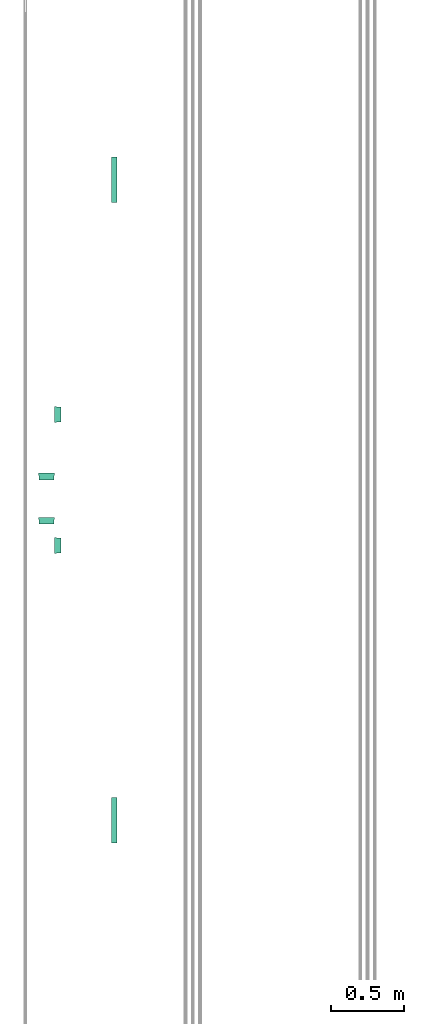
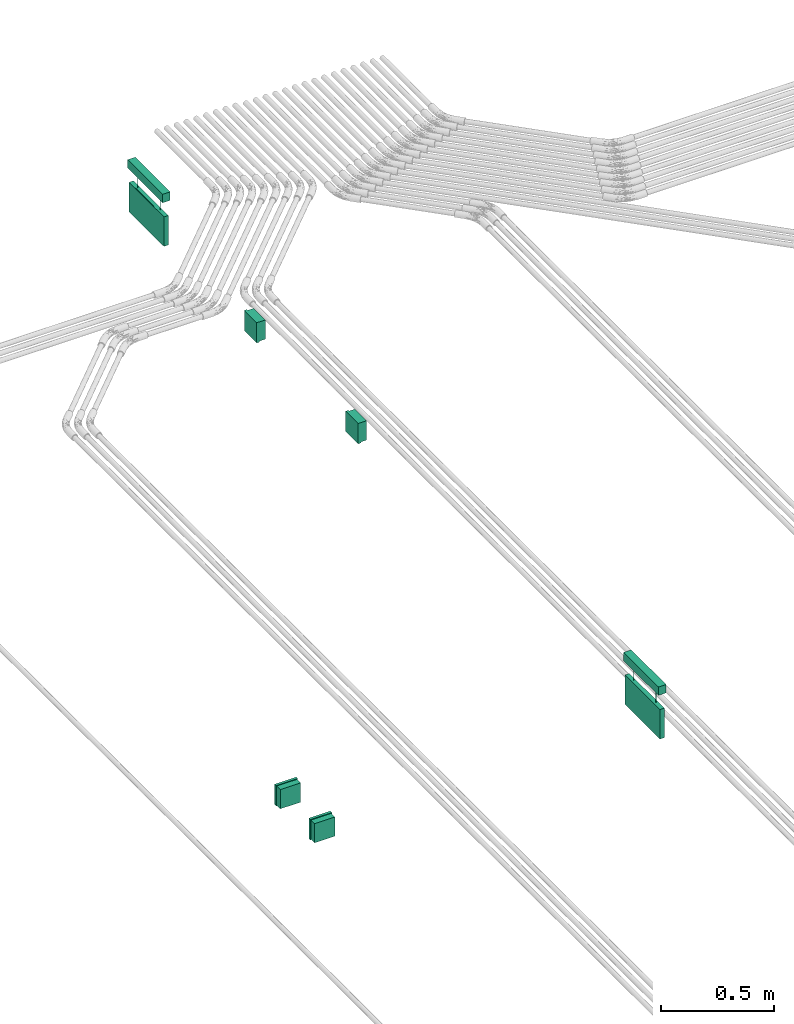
# One storey, part 2 of 51: 4 flow fittings, 2 flow terminals.
"""IFC2X3 building model written with IfcOpenShell, lengths in millimetres."""

from ifc_helpers import new_model, entity, si_unit, converted_unit, derived_unit, direction, frame, origin_with_axes, place, context, subcontext, project, spatial, open_shell, surface_model, source, transform, mapped, type_object, element, save


model = new_model("IFC2X3")

# Units and contexts
model_context = context("Model", 3, precision=0.01, world=frame((0.0, 4.29681676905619e-09, 0.0)), true_north=direction((4.01073788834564e-13, 1.0)))
plan_context = context("Plan", 3, precision=0.01, world=frame((0.0, 4.29681676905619e-09, 0.0)), true_north=direction((4.01073788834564e-13, 1.0)))
body_context = subcontext(model_context, "Body", "Model", "MODEL_VIEW")
ifc_project = project(units=[converted_unit("PLANEANGLEUNIT", "DEGREE", entity("IfcPositiveLengthMeasure", 0.0174532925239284), si_unit("PLANEANGLEUNIT", "RADIAN"), dimensions=[0, 0, 0, 0, 0, 0, 0]), si_unit("AREAUNIT", "SQUARE_METRE"), si_unit("LENGTHUNIT", "METRE", prefix="MILLI"), si_unit("MASSUNIT", "GRAM", prefix="KILO"), si_unit("POWERUNIT", "WATT"), si_unit("PRESSUREUNIT", "PASCAL"), si_unit("FORCEUNIT", "NEWTON", prefix="KILO"), si_unit("ELECTRICVOLTAGEUNIT", "VOLT"), si_unit("ELECTRICCURRENTUNIT", "AMPERE"), si_unit("THERMODYNAMICTEMPERATUREUNIT", "DEGREE_CELSIUS"), si_unit("TIMEUNIT", "SECOND"), si_unit("VOLUMEUNIT", "CUBIC_METRE"), derived_unit("LINEARVELOCITYUNIT", [(si_unit("LENGTHUNIT", "METRE"), 1), (si_unit("TIMEUNIT", "SECOND"), -1)]), derived_unit("VOLUMETRICFLOWRATEUNIT", [(si_unit("VOLUMEUNIT", "CUBIC_METRE"), 1), (si_unit("TIMEUNIT", "SECOND"), -1)]), derived_unit("THERMALTRANSMITTANCEUNIT", [(si_unit("POWERUNIT", "WATT"), 1), (si_unit("THERMODYNAMICTEMPERATUREUNIT", "KELVIN"), -1), (si_unit("AREAUNIT", "SQUARE_METRE"), -1)]), derived_unit("SOUNDPRESSUREUNIT", [(si_unit("PRESSUREUNIT", "PASCAL"), 1)])], contexts=[model_context, plan_context])

# Site, building, storey
site_placement = place(None, frame((0.0, -4.29681676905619e-09, 0.0), z_axis=(0.0, 0.0, 1.0), x_axis=(1.0, 0.0, 0.0)))
site = spatial("IfcSite", under=ifc_project, at=site_placement, Name="ENGM", CompositionType="ELEMENT")
building_placement = place(site_placement, frame((0.0, 4.29681676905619e-09, 0.0), z_axis=(0.0, 0.0, 1.0), x_axis=(1.0, 0.0, 0.0)))
building = spatial("IfcBuilding", under=site, at=building_placement, Name="TI", CompositionType="ELEMENT")
storey_placement = place(building_placement, frame((0.0, 0.0, 210900.0), z_axis=(0.0, 0.0, 1.0), x_axis=(1.0, 0.0, 0.0)))
storey = spatial("IfcBuildingStorey", under=building, at=storey_placement, Name="Nivå F", CompositionType="ELEMENT", Elevation=210900.0)

# Flow fittings
junction_box_type = type_object("IfcJunctionBoxType", Name="Koblingsboks åpen", PredefinedType="NOTDEFINED")
shared_shape_1 = source(origin_with_axes(), body_context, "Body", "SurfaceModel", [
    surface_model("IfcShellBasedSurfaceModel", [(-55.0, 46.0, 55.0), (-55.0, 32.2, 55.0), (55.0, 32.2, 55.0), (55.0, 46.0, 55.0), (55.0, 46.0, -55.0), (55.0, 32.2, -55.0), (-55.0, 32.2, -55.0), (-55.0, 46.0, -55.0), (-52.0, 32.2, 52.0), (-52.0, 0.0, 52.0), (52.0, 0.0, 52.0), (52.0, 32.2, 52.0), (52.0, 32.2, -52.0), (52.0, 0.0, -52.0), (-52.0, 0.0, -52.0), (-52.0, 32.2, -52.0)], [open_shell([[[0, 1, 2]], [[2, 3, 0]], [[4, 5, 6]], [[6, 7, 4]], [[2, 1, 6]], [[6, 5, 2]], [[3, 2, 5]], [[5, 4, 3]], [[0, 3, 4]], [[4, 7, 0]], [[1, 0, 7]], [[7, 6, 1]], [[8, 9, 10]], [[10, 11, 8]], [[12, 13, 14]], [[14, 15, 12]], [[10, 9, 14]], [[14, 13, 10]], [[11, 10, 13]], [[13, 12, 11]], [[8, 11, 12]], [[12, 15, 8]], [[9, 8, 15]], [[15, 14, 9]]])]),
])
for number, where, z_axis, x_axis in (
    (1, (598170.0118, 693907.0, 500.0), (0.0, 0.0, 1.0), (1.0, 0.0, 0.0)),
    (2, (598269.97384, 694355.6718, 2750.0), (0.0, 0.0, 1.0), (0.0, 1.0, 0.0)),
    (3, (598170.0118, 693603.46083, 500.0), (0.0, 0.0, 1.0), (1.0, 0.0, 0.0)),
    (4, (598269.97384, 693455.6718, 2750.0), (0.0, 0.0, 1.0), (0.0, 1.0, 0.0)),
):
    element("IfcFlowFitting", number, at=place(storey_placement, frame(where, z_axis=z_axis, x_axis=x_axis)), inside=storey, type_object=junction_box_type, Name="Koblingsboks åpen", context=body_context, shape_type="MappedRepresentation", body=[
        mapped(shared_shape_1, transform((0.0, 0.0, 0.0), scale=1.0)),
    ])

# Flow terminals
light_fixture_type = type_object("IfcLightFixtureType", Name="IB7334 Zumtobel Puresign/Consign 150 ASI NDA", PredefinedType="NOTDEFINED")
shared_shape_2 = source(origin_with_axes(), body_context, "Body", "SurfaceModel", [
    surface_model("IfcShellBasedSurfaceModel", [(-81.53868, 34.0, -145.12258), (-54.46132, 34.0, -145.12258), (-54.46132, 34.0, -221.44284), (-27.10707, 34.0, -224.68761), (-68.0, 34.0, -265.58054), (-27.10707, 34.0, -194.08859), (-81.53868, 34.0, -221.44284), (-108.89293, 34.0, -224.68761), (-108.89293, 34.0, -194.08859), (-81.53868, 32.0, -221.44284), (-68.0, 32.0, -265.58054), (-54.46132, 32.0, -221.44284), (-108.89293, 32.0, -224.68761), (-108.89293, 32.0, -194.08859), (-27.10707, 32.0, -224.68761), (-81.53868, 32.0, -145.12258), (-54.46132, 32.0, -145.12258), (-27.10707, 32.0, -194.08859), (-128.62178, 34.0, -240.35155), (-135.61481, 34.0, -223.4689), (-117.49747, 34.0, -254.84903), (-138.0, 34.0, -205.35156), (-135.61481, 34.0, -187.23423), (-128.62178, 34.0, -170.35156), (-103.0, 34.0, -265.97334), (-86.11734, 34.0, -272.96637), (-68.0, 34.0, -275.35156), (-49.88267, 34.0, -272.96637), (-33.0, 34.0, -265.97334), (-117.49747, 34.0, -155.8541), (-103.0, 34.0, -144.72978), (-86.11734, 34.0, -137.73675), (-68.0, 34.0, -135.35156), (-49.88267, 34.0, -137.73675), (-33.0, 34.0, -144.72978), (-0.38519, 34.0, -223.4689), (-7.37822, 34.0, -240.35155), (2.0, 34.0, -205.35156), (-18.50252, 34.0, -254.84903), (-18.50252, 34.0, -155.8541), (-7.37822, 34.0, -170.35156), (-0.38519, 34.0, -187.23423), (-49.88267, 32.0, -137.73675), (-68.0, 32.0, -135.35156), (-33.0, 32.0, -144.72978), (-103.0, 32.0, -144.72978), (-86.11734, 32.0, -137.73675), (-0.38519, 32.0, -187.23423), (-7.37822, 32.0, -170.35156), (2.0, 32.0, -205.35156), (-18.50252, 32.0, -155.8541), (-0.38519, 32.0, -223.4689), (-7.37822, 32.0, -240.35155), (-18.50252, 32.0, -254.84903), (-117.49747, 32.0, -155.8541), (-128.62178, 32.0, -170.35156), (-135.61481, 32.0, -187.23423), (-138.0, 32.0, -205.35156), (-135.61481, 32.0, -223.4689), (-128.62178, 32.0, -240.35155), (-117.49747, 32.0, -254.84903), (-103.0, 32.0, -265.97334), (-33.0, 32.0, -265.97334), (-86.11734, 32.0, -272.96637), (-49.88267, 32.0, -272.96637), (-68.0, 32.0, -275.35156), (-155.0, 34.0, -285.35157), (29.54747, 34.0, -259.89348), (40.0, 34.0, -266.174), (155.0, 34.0, -285.35157), (-155.0, 34.0, -125.35156), (10.0, 34.0, -203.35156), (10.0, 34.0, -191.35157), (40.0, 34.0, -203.35156), (28.0, 34.0, -178.14045), (58.20469, 34.0, -212.19986), (68.0, 34.0, -251.35155), (68.0, 34.0, -219.57417), (110.0, 34.0, -251.35155), (110.0, 34.0, -239.35156), (80.0, 34.0, -207.93515), (80.0, 34.0, -239.35156), (155.0, 34.0, -125.35156), (28.0, 34.0, -191.35157), (88.85504, 34.0, -196.43854), (99.14496, 34.0, -190.26459), (78.60286, 34.0, -179.35157), (65.7082, 34.0, -179.35157), (38.37653, 34.0, -166.87452), (42.6718, 34.0, -168.35925), (40.0, 34.0, -183.07235), (29.87565, 34.0, -160.35157), (28.0, 34.0, -153.35156), (28.47704, 34.0, -149.7281), (29.87565, 34.0, -146.35156), (28.47704, 34.0, -156.97503), (35.0, 34.0, -165.47591), (32.1005, 34.0, -163.25106), (42.0, 34.0, -139.35156), (32.1005, 34.0, -143.45206), (35.0, 34.0, -141.22721), (38.37653, 34.0, -139.8286), (42.0, 34.0, -167.35156), (45.62347, 34.0, -166.87452), (46.0, 34.0, -167.35156), (49.0, 34.0, -165.47591), (85.39714, 34.0, -167.35156), (51.89949, 34.0, -163.25106), (54.12435, 34.0, -160.35157), (55.52296, 34.0, -156.97503), (51.89949, 34.0, -143.45206), (49.0, 34.0, -141.22721), (45.62347, 34.0, -139.8286), (55.52296, 34.0, -149.7281), (56.0, 34.0, -153.35156), (54.12435, 34.0, -146.35156), (155.0, 32.0, -125.35156), (-155.0, 32.0, -125.35156), (42.0, 32.0, -139.35156), (35.0, 32.0, -141.22721), (29.87565, 32.0, -146.35156), (32.1005, 32.0, -143.45206), (38.37653, 32.0, -139.8286), (28.47704, 32.0, -149.7281), (28.0, 32.0, -153.35156), (28.47704, 32.0, -156.97503), (28.0, 32.0, -178.14045), (38.37653, 32.0, -166.87452), (35.0, 32.0, -165.47591), (32.1005, 32.0, -163.25106), (29.87565, 32.0, -160.35157), (45.62347, 32.0, -139.8286), (49.0, 32.0, -141.22721), (51.89949, 32.0, -143.45206), (54.12435, 32.0, -146.35156), (85.39714, 32.0, -167.35156), (55.52296, 32.0, -149.7281), (56.0, 32.0, -153.35156), (45.62347, 32.0, -166.87452), (42.6718, 32.0, -168.35925), (46.0, 32.0, -167.35156), (42.0, 32.0, -167.35156), (49.0, 32.0, -165.47591), (54.12435, 32.0, -160.35157), (55.52296, 32.0, -156.97503), (51.89949, 32.0, -163.25106), (99.14496, 32.0, -190.26459), (-155.0, 32.0, -285.35157), (10.0, 32.0, -203.35156), (10.0, 32.0, -191.35157), (40.0, 32.0, -203.35156), (29.54747, 32.0, -259.89348), (155.0, 32.0, -285.35157), (40.0, 32.0, -266.174), (28.0, 32.0, -191.35157), (88.85504, 32.0, -196.43854), (78.60286, 32.0, -179.35157), (80.0, 32.0, -207.93515), (65.7082, 32.0, -179.35157), (110.0, 32.0, -239.35156), (40.0, 32.0, -183.07235), (58.20469, 32.0, -212.19986), (68.0, 32.0, -219.57417), (68.0, 32.0, -251.35155), (110.0, 32.0, -251.35155), (80.0, 32.0, -239.35156), (97.65961, 22.79955, -45.35156), (98.63059, 23.54461, -45.35156), (98.24492, 23.38486, -45.35156), (97.91374, 23.13074, -45.35156), (97.49985, 22.41388, -45.35156), (97.44537, 22.0, -45.35156), (99.45835, 23.54461, -45.35156), (100.42933, 21.20045, -45.35156), (99.84401, 23.38486, -45.35156), (100.58908, 22.41388, -45.35156), (99.04447, 23.5991, -45.35156), (100.42933, 22.79955, -45.35156), (100.1752, 23.13074, -45.35156), (97.91374, 20.86927, -45.35156), (97.49985, 21.58612, -45.35156), (97.65961, 21.20045, -45.35156), (98.63059, 20.45539, -45.35156), (99.04447, 20.4009, -45.35156), (98.24492, 20.61514, -45.35156), (99.45835, 20.45539, -45.35156), (100.64357, 22.0, -45.35156), (100.58908, 21.58612, -45.35156), (99.84401, 20.61514, -45.35156), (100.1752, 20.86927, -45.35156), (-99.84401, 23.38486, -45.35156), (-98.24492, 23.38486, -45.35156), (-99.45835, 23.54461, -45.35156), (-100.1752, 23.13074, -45.35156), (-100.1752, 20.86927, -45.35156), (-100.58908, 22.41388, -45.35156), (-100.64357, 22.0, -45.35156), (-100.42933, 22.79955, -45.35156), (-97.65961, 21.20045, -45.35156), (-99.04447, 23.5991, -45.35156), (-98.63059, 23.54461, -45.35156), (-97.91374, 23.13074, -45.35156), (-97.49985, 22.41388, -45.35156), (-97.65961, 22.79955, -45.35156), (-100.58908, 21.58612, -45.35156), (-100.42933, 21.20045, -45.35156), (-99.45835, 20.45539, -45.35156), (-99.84401, 20.61514, -45.35156), (-99.04447, 20.4009, -45.35156), (-98.63059, 20.45539, -45.35156), (-97.44537, 22.0, -45.35156), (-97.49985, 21.58612, -45.35156), (-98.24492, 20.61514, -45.35156), (-97.91374, 20.86927, -45.35156), (97.91374, 20.86927, -124.69685), (99.04447, 20.4009, -124.69685), (98.63059, 20.45539, -124.69685), (98.24492, 20.61514, -124.69685), (97.65961, 21.20045, -124.69685), (97.49985, 21.58612, -124.69685), (99.45835, 20.45539, -124.69685), (97.65961, 22.79955, -124.69685), (100.42933, 21.20045, -124.69685), (99.84401, 20.61514, -124.69685), (100.1752, 20.86927, -124.69685), (100.64357, 22.0, -124.69685), (100.58908, 21.58612, -124.69685), (100.58908, 22.41388, -124.69685), (97.44537, 22.0, -124.69685), (97.49985, 22.41388, -124.69685), (98.63059, 23.54461, -124.69685), (98.24492, 23.38486, -124.69685), (97.91374, 23.13074, -124.69685), (99.45835, 23.54461, -124.69685), (100.42933, 22.79955, -124.69685), (99.84401, 23.38486, -124.69685), (100.1752, 23.13074, -124.69685), (99.04447, 23.5991, -124.69685), (-99.45835, 20.45539, -124.69685), (-98.63059, 20.45539, -124.69685), (-99.04447, 20.4009, -124.69685), (-100.1752, 20.86927, -124.69685), (-99.84401, 20.61514, -124.69685), (-100.42933, 21.20045, -124.69685), (-100.58908, 21.58612, -124.69685), (-97.65961, 21.20045, -124.69685), (-99.84401, 23.38486, -124.69685), (-98.24492, 20.61514, -124.69685), (-97.91374, 20.86927, -124.69685), (-97.44537, 22.0, -124.69685), (-97.49985, 21.58612, -124.69685), (-97.49985, 22.41388, -124.69685), (-100.64357, 22.0, -124.69685), (-100.1752, 23.13074, -124.69685), (-100.58908, 22.41388, -124.69685), (-100.42933, 22.79955, -124.69685), (-98.24492, 23.38486, -124.69685), (-99.45835, 23.54461, -124.69685), (-97.91374, 23.13074, -124.69685), (-97.65961, 22.79955, -124.69685), (-99.04447, 23.5991, -124.69685), (-98.63059, 23.54461, -124.69685), (155.0, 41.43279, -0.02005), (155.0, 2.56721, -0.02005), (155.0, 41.43279, -45.67969), (155.0, 2.56721, -45.67969), (155.0, 32.0, -124.69685), (155.0, 12.0, -124.69685), (155.0, 12.0, -284.69685), (155.0, 32.0, -284.69685), (-155.0, 32.0, -284.69685), (-155.0, 12.0, -284.69685), (-155.0, 32.0, -124.69685), (-155.0, 12.0, -124.69685), (-155.0, 41.43279, -45.67969), (-155.0, 2.56721, -45.67969), (-155.0, 2.56721, -0.02005), (-155.0, 41.43279, -0.02005)], [open_shell([[[0, 1, 2]], [[2, 3, 4]], [[3, 2, 5]], [[6, 4, 7]], [[4, 6, 2]], [[6, 7, 8]], [[2, 6, 0]], [[9, 10, 11]], [[12, 9, 13]], [[9, 12, 10]], [[10, 14, 11]], [[15, 11, 16]], [[15, 9, 11]], [[17, 11, 14]], [[3, 5, 17]], [[17, 14, 3]], [[4, 3, 14]], [[14, 10, 4]], [[7, 4, 10]], [[10, 12, 7]], [[8, 7, 12]], [[12, 13, 8]], [[6, 8, 9]], [[13, 9, 8]], [[0, 6, 9]], [[9, 15, 0]], [[1, 0, 15]], [[15, 16, 1]], [[2, 1, 16]], [[16, 11, 2]], [[5, 2, 17]], [[11, 17, 2]], [[18, 19, 7]], [[7, 20, 18]], [[7, 19, 21]], [[22, 23, 8]], [[7, 21, 8]], [[6, 8, 0]], [[8, 21, 22]], [[20, 7, 24]], [[25, 24, 4]], [[26, 4, 27]], [[4, 26, 25]], [[7, 4, 24]], [[27, 4, 28]], [[3, 28, 4]], [[8, 23, 29]], [[30, 0, 8]], [[0, 31, 32]], [[31, 0, 30]], [[32, 33, 1]], [[2, 1, 5]], [[34, 1, 33]], [[32, 1, 0]], [[5, 1, 34]], [[3, 35, 36]], [[35, 3, 37]], [[36, 38, 3]], [[38, 28, 3]], [[39, 40, 5]], [[5, 41, 37]], [[41, 5, 40]], [[5, 37, 3]], [[39, 5, 34]], [[30, 8, 29]], [[42, 43, 16]], [[17, 44, 16]], [[16, 44, 42]], [[43, 15, 16]], [[15, 45, 13]], [[46, 15, 43]], [[15, 46, 45]], [[16, 11, 17]], [[17, 47, 48]], [[17, 49, 47]], [[48, 50, 17]], [[14, 51, 49]], [[52, 51, 14]], [[52, 14, 53]], [[14, 49, 17]], [[50, 44, 17]], [[45, 54, 13]], [[55, 56, 13]], [[57, 12, 13]], [[13, 56, 57]], [[9, 15, 13]], [[58, 59, 12]], [[60, 12, 59]], [[12, 57, 58]], [[12, 60, 61]], [[14, 10, 62]], [[53, 14, 62]], [[61, 63, 10]], [[64, 10, 65]], [[10, 64, 62]], [[65, 10, 63]], [[12, 61, 10]], [[13, 54, 55]], [[3, 4, 10]], [[10, 14, 3]], [[5, 3, 14]], [[14, 17, 5]], [[2, 5, 17]], [[17, 11, 2]], [[1, 2, 16]], [[11, 16, 2]], [[0, 1, 16]], [[16, 15, 0]], [[6, 0, 15]], [[15, 9, 6]], [[8, 6, 9]], [[9, 13, 8]], [[7, 8, 13]], [[13, 12, 7]], [[4, 7, 12]], [[12, 10, 4]], [[42, 33, 43]], [[44, 34, 42]], [[40, 50, 48]], [[44, 50, 39]], [[41, 48, 47]], [[42, 34, 33]], [[33, 32, 43]], [[41, 40, 48]], [[39, 50, 40]], [[39, 34, 44]], [[37, 41, 47]], [[47, 49, 37]], [[51, 35, 49]], [[52, 36, 51]], [[28, 53, 62]], [[52, 53, 38]], [[27, 62, 64]], [[52, 38, 36]], [[36, 35, 51]], [[26, 27, 64]], [[28, 62, 27]], [[28, 38, 53]], [[65, 26, 64]], [[49, 35, 37]], [[63, 25, 65]], [[61, 24, 63]], [[18, 60, 59]], [[61, 60, 20]], [[19, 59, 58]], [[63, 24, 25]], [[25, 26, 65]], [[19, 18, 59]], [[20, 60, 18]], [[20, 24, 61]], [[21, 19, 58]], [[58, 57, 21]], [[56, 22, 57]], [[55, 23, 56]], [[30, 54, 45]], [[55, 54, 29]], [[31, 45, 46]], [[55, 29, 23]], [[23, 22, 56]], [[32, 31, 46]], [[30, 45, 31]], [[30, 29, 54]], [[43, 32, 46]], [[57, 22, 21]], [[66, 24, 25]], [[24, 66, 20]], [[18, 20, 66]], [[66, 19, 18]], [[25, 26, 66]], [[28, 38, 67]], [[27, 28, 68]], [[26, 27, 69]], [[66, 26, 69]], [[21, 19, 66]], [[22, 21, 70]], [[67, 36, 35]], [[71, 37, 72]], [[41, 72, 37]], [[37, 71, 35]], [[73, 35, 71]], [[41, 40, 74]], [[21, 66, 70]], [[38, 36, 67]], [[67, 68, 28]], [[67, 73, 75]], [[76, 68, 77]], [[69, 78, 79]], [[69, 68, 78]], [[80, 79, 81]], [[68, 76, 78]], [[82, 69, 79]], [[68, 69, 27]], [[73, 67, 35]], [[74, 83, 72]], [[72, 41, 74]], [[84, 85, 79]], [[84, 80, 86]], [[86, 80, 87]], [[88, 89, 74]], [[84, 79, 80]], [[75, 73, 90]], [[82, 79, 85]], [[91, 74, 40]], [[92, 40, 39]], [[39, 93, 92]], [[94, 93, 39]], [[23, 70, 29]], [[40, 92, 95]], [[96, 74, 97]], [[91, 40, 95]], [[74, 91, 97]], [[74, 96, 88]], [[31, 30, 70]], [[98, 33, 32]], [[70, 32, 31]], [[30, 29, 70]], [[39, 99, 94]], [[39, 34, 99]], [[34, 100, 99]], [[100, 34, 33]], [[101, 100, 33]], [[32, 70, 82]], [[23, 22, 70]], [[89, 102, 103]], [[102, 89, 88]], [[89, 103, 104]], [[104, 105, 106]], [[107, 106, 105]], [[105, 104, 103]], [[106, 108, 109]], [[106, 107, 108]], [[110, 111, 82]], [[98, 101, 33]], [[112, 98, 82]], [[111, 112, 82]], [[113, 106, 114]], [[115, 82, 106]], [[82, 115, 110]], [[106, 113, 115]], [[114, 106, 109]], [[98, 32, 82]], [[106, 82, 85]], [[116, 117, 43]], [[43, 117, 46]], [[45, 46, 117]], [[117, 54, 45]], [[43, 42, 118]], [[119, 42, 44]], [[120, 121, 50]], [[44, 121, 119]], [[44, 50, 121]], [[119, 122, 42]], [[123, 120, 50]], [[123, 50, 124]], [[125, 124, 48]], [[54, 117, 55]], [[126, 127, 128]], [[126, 129, 130]], [[126, 128, 129]], [[130, 125, 48]], [[124, 50, 48]], [[117, 56, 55]], [[118, 131, 116]], [[118, 42, 122]], [[131, 132, 116]], [[116, 133, 134]], [[133, 116, 132]], [[135, 134, 136]], [[116, 134, 135]], [[135, 136, 137]], [[118, 116, 43]], [[138, 139, 140]], [[139, 138, 141]], [[139, 141, 127]], [[127, 126, 139]], [[138, 140, 142]], [[143, 135, 144]], [[142, 135, 145]], [[135, 142, 140]], [[135, 143, 145]], [[144, 135, 137]], [[116, 135, 146]], [[56, 117, 57]], [[57, 147, 58]], [[126, 48, 47]], [[148, 49, 51]], [[47, 49, 149]], [[150, 148, 51]], [[148, 149, 49]], [[51, 52, 151]], [[60, 59, 147]], [[61, 147, 63]], [[147, 61, 60]], [[59, 58, 147]], [[53, 62, 151]], [[65, 63, 147]], [[64, 65, 152]], [[62, 64, 153]], [[147, 152, 65]], [[117, 147, 57]], [[52, 53, 151]], [[154, 126, 149]], [[126, 47, 149]], [[155, 156, 157]], [[157, 156, 158]], [[146, 155, 159]], [[160, 150, 161]], [[162, 153, 163]], [[153, 151, 62]], [[163, 153, 164]], [[161, 150, 151]], [[157, 165, 159]], [[159, 164, 152]], [[116, 159, 152]], [[153, 152, 164]], [[159, 155, 157]], [[153, 64, 152]], [[51, 151, 150]], [[159, 116, 146]], [[130, 48, 126]], [[70, 66, 147]], [[147, 117, 70]], [[82, 70, 117]], [[117, 116, 82]], [[69, 82, 116]], [[116, 152, 69]], [[66, 69, 152]], [[152, 147, 66]], [[79, 78, 164]], [[164, 159, 79]], [[81, 79, 159]], [[159, 165, 81]], [[87, 80, 157]], [[157, 158, 87]], [[86, 87, 158]], [[158, 156, 86]], [[84, 86, 156]], [[156, 155, 84]], [[85, 84, 155]], [[155, 146, 85]], [[106, 85, 146]], [[146, 135, 106]], [[104, 106, 135]], [[135, 140, 104]], [[89, 104, 139]], [[140, 139, 104]], [[74, 89, 139]], [[139, 126, 74]], [[83, 74, 126]], [[126, 154, 83]], [[72, 83, 149]], [[154, 149, 83]], [[71, 72, 149]], [[149, 148, 71]], [[73, 71, 148]], [[148, 150, 73]], [[90, 73, 150]], [[150, 160, 90]], [[75, 90, 160]], [[160, 161, 75]], [[67, 75, 161]], [[161, 151, 67]], [[68, 67, 151]], [[151, 153, 68]], [[77, 68, 153]], [[153, 162, 77]], [[76, 77, 162]], [[162, 163, 76]], [[92, 125, 95]], [[95, 130, 91]], [[96, 97, 128]], [[129, 97, 91]], [[88, 96, 127]], [[125, 130, 95]], [[92, 124, 125]], [[96, 128, 127]], [[128, 97, 129]], [[91, 130, 129]], [[88, 127, 141]], [[141, 102, 88]], [[102, 138, 103]], [[103, 142, 105]], [[108, 107, 143]], [[145, 107, 105]], [[109, 108, 144]], [[142, 145, 105]], [[103, 138, 142]], [[109, 144, 137]], [[144, 108, 143]], [[107, 145, 143]], [[109, 137, 114]], [[141, 138, 102]], [[78, 76, 163]], [[163, 164, 78]], [[80, 81, 165]], [[165, 157, 80]], [[114, 136, 113]], [[113, 134, 115]], [[111, 110, 132]], [[133, 110, 115]], [[112, 111, 131]], [[136, 134, 113]], [[114, 137, 136]], [[111, 132, 131]], [[132, 110, 133]], [[115, 134, 133]], [[112, 131, 118]], [[118, 98, 112]], [[98, 122, 101]], [[101, 119, 100]], [[94, 99, 120]], [[121, 99, 100]], [[93, 94, 123]], [[119, 121, 100]], [[101, 122, 119]], [[93, 123, 124]], [[123, 94, 120]], [[99, 121, 120]], [[93, 124, 92]], [[118, 122, 98]], [[37, 47, 41]], [[41, 48, 40]], [[34, 39, 44]], [[50, 39, 40]], [[33, 34, 42]], [[47, 48, 41]], [[37, 49, 47]], [[34, 44, 42]], [[44, 39, 50]], [[40, 48, 50]], [[33, 42, 43]], [[43, 32, 33]], [[32, 46, 31]], [[31, 45, 30]], [[23, 29, 55]], [[54, 29, 30]], [[22, 23, 56]], [[45, 54, 30]], [[31, 46, 45]], [[22, 56, 57]], [[56, 23, 55]], [[29, 54, 55]], [[22, 57, 21]], [[43, 46, 32]], [[21, 58, 19]], [[19, 59, 18]], [[24, 20, 61]], [[60, 20, 18]], [[25, 24, 63]], [[58, 59, 19]], [[21, 57, 58]], [[24, 61, 63]], [[61, 20, 60]], [[18, 59, 60]], [[25, 63, 65]], [[65, 26, 25]], [[26, 64, 27]], [[27, 62, 28]], [[36, 38, 52]], [[53, 38, 28]], [[35, 36, 51]], [[62, 53, 28]], [[27, 64, 62]], [[35, 51, 49]], [[51, 36, 52]], [[38, 53, 52]], [[35, 49, 37]], [[65, 64, 26]], [[106, 86, 87]], [[86, 106, 85]], [[84, 86, 85]], [[87, 75, 90]], [[106, 87, 104]], [[89, 90, 74]], [[90, 89, 104]], [[73, 83, 90]], [[71, 72, 83]], [[83, 74, 90]], [[104, 87, 90]], [[77, 80, 81]], [[78, 76, 81]], [[78, 81, 79]], [[77, 81, 76]], [[73, 71, 83]], [[75, 77, 67]], [[77, 68, 67]], [[75, 80, 77]], [[75, 87, 80]], [[98, 112, 111]], [[110, 98, 111]], [[92, 101, 110]], [[113, 110, 115]], [[113, 92, 110]], [[101, 99, 100]], [[101, 98, 110]], [[101, 94, 99]], [[101, 92, 94]], [[94, 92, 93]], [[114, 109, 113]], [[109, 108, 107]], [[91, 109, 107]], [[105, 103, 102]], [[91, 107, 105]], [[91, 105, 102]], [[92, 91, 95]], [[92, 109, 91]], [[91, 96, 97]], [[102, 96, 91]], [[102, 88, 96]], [[109, 92, 113]], [[163, 164, 165]], [[163, 165, 162]], [[159, 165, 164]], [[162, 165, 157]], [[161, 151, 162]], [[151, 153, 162]], [[160, 161, 158]], [[148, 150, 154]], [[162, 157, 161]], [[161, 157, 158]], [[155, 146, 156]], [[158, 156, 135]], [[135, 156, 146]], [[158, 135, 140]], [[154, 150, 160]], [[126, 154, 160]], [[149, 148, 154]], [[160, 139, 126]], [[139, 160, 140]], [[160, 158, 140]], [[141, 138, 142]], [[130, 141, 142]], [[145, 143, 144]], [[130, 142, 145]], [[130, 145, 144]], [[128, 130, 129]], [[128, 127, 141]], [[130, 124, 125]], [[130, 128, 141]], [[120, 124, 130]], [[130, 144, 122]], [[144, 136, 133]], [[133, 136, 134]], [[118, 133, 132]], [[118, 144, 133]], [[132, 131, 118]], [[120, 122, 121]], [[123, 124, 120]], [[121, 122, 119]], [[130, 122, 120]], [[122, 144, 118]], [[137, 136, 144]], [[78, 79, 159]], [[159, 164, 78]], [[76, 78, 164]], [[164, 163, 76]], [[77, 76, 163]], [[163, 162, 77]], [[68, 77, 162]], [[162, 153, 68]], [[67, 68, 153]], [[153, 151, 67]], [[75, 67, 151]], [[151, 161, 75]], [[90, 75, 161]], [[161, 160, 90]], [[73, 90, 160]], [[160, 150, 73]], [[71, 73, 150]], [[150, 148, 71]], [[72, 71, 148]], [[148, 149, 72]], [[83, 72, 149]], [[149, 154, 83]], [[74, 83, 154]], [[154, 126, 74]], [[89, 74, 126]], [[126, 139, 89]], [[104, 89, 139]], [[139, 140, 104]], [[106, 104, 140]], [[140, 135, 106]], [[85, 106, 135]], [[135, 146, 85]], [[84, 85, 146]], [[146, 155, 84]], [[86, 84, 155]], [[155, 156, 86]], [[87, 86, 156]], [[156, 158, 87]], [[80, 87, 158]], [[158, 157, 80]], [[81, 80, 157]], [[157, 165, 81]], [[79, 81, 165]], [[165, 159, 79]], [[123, 93, 124]], [[120, 94, 123]], [[100, 121, 119]], [[120, 121, 99]], [[101, 119, 122]], [[123, 94, 93]], [[93, 92, 124]], [[101, 100, 119]], [[99, 121, 100]], [[99, 94, 120]], [[98, 101, 122]], [[122, 118, 98]], [[131, 112, 118]], [[132, 111, 131]], [[115, 133, 134]], [[132, 133, 110]], [[113, 134, 136]], [[132, 110, 111]], [[111, 112, 131]], [[114, 113, 136]], [[115, 134, 113]], [[115, 110, 133]], [[137, 114, 136]], [[118, 112, 98]], [[144, 109, 137]], [[143, 108, 144]], [[105, 145, 142]], [[143, 145, 107]], [[103, 142, 138]], [[144, 108, 109]], [[109, 114, 137]], [[103, 105, 142]], [[107, 145, 105]], [[107, 108, 143]], [[102, 103, 138]], [[138, 141, 102]], [[127, 88, 141]], [[128, 96, 127]], [[91, 129, 130]], [[128, 129, 97]], [[95, 130, 125]], [[128, 97, 96]], [[96, 88, 127]], [[92, 95, 125]], [[91, 130, 95]], [[91, 97, 129]], [[124, 92, 125]], [[141, 88, 102]], [[166, 167, 168]], [[166, 168, 169]], [[166, 170, 171]], [[172, 167, 173]], [[167, 166, 173]], [[174, 173, 175]], [[172, 176, 167]], [[174, 177, 178]], [[177, 174, 175]], [[174, 172, 173]], [[166, 171, 179]], [[180, 181, 179]], [[166, 179, 173]], [[182, 183, 179]], [[182, 179, 184]], [[185, 179, 183]], [[186, 173, 187]], [[175, 173, 186]], [[173, 188, 189]], [[188, 173, 185]], [[179, 185, 173]], [[171, 180, 179]], [[190, 191, 192]], [[193, 194, 190]], [[195, 196, 193]], [[195, 193, 197]], [[198, 191, 190]], [[199, 191, 200]], [[199, 192, 191]], [[201, 202, 203]], [[198, 201, 191]], [[198, 202, 201]], [[193, 196, 194]], [[204, 205, 194]], [[190, 194, 198]], [[194, 206, 198]], [[206, 194, 207]], [[208, 209, 206]], [[210, 198, 211]], [[202, 198, 210]], [[198, 212, 213]], [[212, 198, 209]], [[206, 209, 198]], [[196, 204, 194]], [[214, 215, 216]], [[214, 216, 217]], [[214, 218, 219]], [[215, 214, 220]], [[221, 222, 214]], [[223, 222, 224]], [[222, 223, 220]], [[222, 225, 226]], [[222, 220, 214]], [[222, 227, 225]], [[228, 214, 219]], [[228, 229, 221]], [[230, 222, 221]], [[231, 230, 221]], [[231, 221, 232]], [[222, 230, 233]], [[234, 235, 236]], [[235, 234, 227]], [[222, 235, 227]], [[233, 235, 222]], [[230, 237, 233]], [[221, 214, 228]], [[238, 239, 240]], [[241, 238, 242]], [[241, 243, 244]], [[245, 238, 241]], [[246, 245, 241]], [[247, 245, 248]], [[245, 247, 239]], [[245, 249, 250]], [[245, 239, 238]], [[245, 251, 249]], [[252, 241, 244]], [[253, 252, 254]], [[253, 254, 255]], [[246, 256, 245]], [[241, 253, 246]], [[256, 246, 257]], [[251, 258, 259]], [[245, 258, 251]], [[256, 260, 261]], [[245, 256, 258]], [[257, 260, 256]], [[253, 241, 252]], [[227, 175, 225]], [[234, 177, 227]], [[233, 237, 172]], [[236, 177, 234]], [[186, 225, 175]], [[175, 227, 177]], [[235, 174, 178]], [[174, 235, 172]], [[235, 233, 172]], [[178, 177, 236]], [[178, 236, 235]], [[237, 176, 172]], [[167, 230, 231]], [[232, 168, 231]], [[166, 221, 229]], [[232, 221, 169]], [[170, 229, 228]], [[167, 176, 230]], [[168, 167, 231]], [[166, 169, 221]], [[171, 170, 228]], [[166, 229, 170]], [[168, 232, 169]], [[230, 176, 237]], [[219, 180, 228]], [[218, 181, 219]], [[214, 217, 184]], [[218, 214, 179]], [[171, 228, 180]], [[180, 219, 181]], [[183, 182, 216]], [[216, 182, 184]], [[179, 214, 184]], [[179, 181, 218]], [[217, 216, 184]], [[216, 215, 183]], [[185, 220, 223]], [[224, 188, 223]], [[173, 222, 226]], [[224, 222, 189]], [[187, 226, 225]], [[183, 215, 185]], [[188, 185, 223]], [[173, 189, 222]], [[186, 187, 225]], [[173, 226, 187]], [[188, 224, 189]], [[185, 215, 220]], [[244, 243, 204]], [[252, 244, 196]], [[242, 238, 206]], [[241, 242, 194]], [[243, 241, 205]], [[243, 205, 204]], [[204, 196, 244]], [[194, 205, 241]], [[194, 242, 207]], [[206, 207, 242]], [[206, 238, 208]], [[238, 240, 208]], [[247, 248, 213]], [[239, 247, 212]], [[250, 249, 210]], [[245, 250, 211]], [[248, 245, 198]], [[239, 209, 240]], [[239, 212, 209]], [[240, 209, 208]], [[198, 245, 211]], [[212, 247, 213]], [[213, 248, 198]], [[250, 210, 211]], [[251, 259, 202]], [[249, 251, 210]], [[256, 261, 191]], [[258, 256, 201]], [[259, 258, 203]], [[210, 251, 202]], [[202, 259, 203]], [[201, 256, 191]], [[200, 191, 261]], [[203, 258, 201]], [[199, 200, 261]], [[261, 260, 199]], [[246, 253, 193]], [[257, 246, 190]], [[254, 252, 196]], [[255, 254, 195]], [[253, 255, 197]], [[257, 192, 260]], [[257, 190, 192]], [[260, 192, 199]], [[197, 255, 195]], [[190, 246, 193]], [[193, 253, 197]], [[254, 196, 195]], [[262, 263, 264]], [[265, 264, 263]], [[266, 267, 268]], [[268, 269, 266]], [[270, 271, 272]], [[273, 272, 271]], [[274, 275, 276]], [[276, 277, 274]], [[265, 263, 276]], [[276, 275, 265]], [[268, 267, 273]], [[273, 271, 268]], [[269, 268, 270]], [[271, 270, 268]], [[266, 269, 272]], [[270, 272, 269]], [[264, 265, 274]], [[275, 274, 265]], [[262, 264, 274]], [[274, 277, 262]], [[263, 262, 277]], [[277, 276, 263]], [[267, 266, 273]], [[272, 273, 266]]])]),
])
for number, where, z_axis, x_axis in (
    (5, (598657.56414, 691569.22602, 2445.03033000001), (0.0, 0.0, 1.0), (0.0, 1.0, 0.0)),
    (6, (598657.56414, 695969.22602, 2445.03033000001), (0.0, 0.0, 1.0), (0.0, 1.0, 0.0)),
):
    element("IfcFlowTerminal", number, at=place(storey_placement, frame(where, z_axis=z_axis, x_axis=x_axis)), inside=storey, type_object=light_fixture_type, Name="IB7334 Zumtobel Puresign/Consign 150 ASI NDA", context=body_context, shape_type="MappedRepresentation", body=[
        mapped(shared_shape_2, transform((0.0, 0.0, 0.0), scale=1.0)),
    ])

save(model, "model.ifc")
